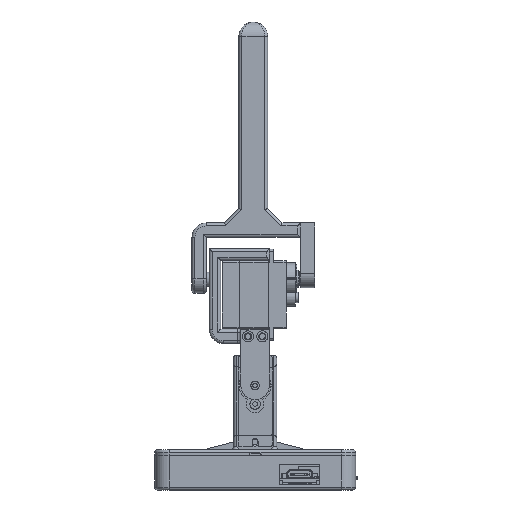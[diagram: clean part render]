
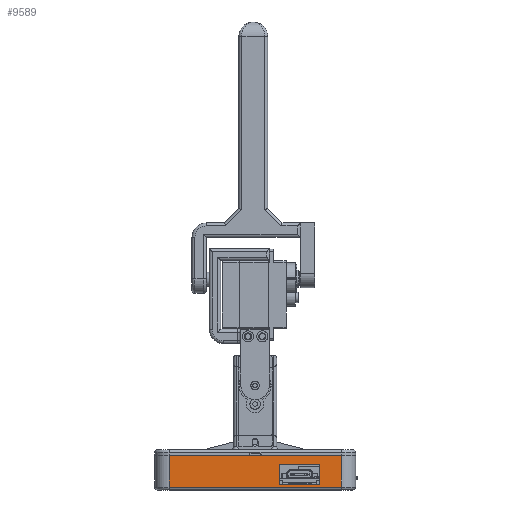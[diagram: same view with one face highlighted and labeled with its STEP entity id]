
A CAD part, left-side view. The second image highlights one B-rep face of the part: STEP entity #9589.
In plain terms, the highlighted planar face has unit normal (-1, 0, 0).
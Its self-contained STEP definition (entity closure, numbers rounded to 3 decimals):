
#9589 = ADVANCED_FACE('',(#9590,#9709),#9604,.F.);
#9590 = FACE_BOUND('',#9591,.F.);
#9591 = EDGE_LOOP('',(#9592,#9627,#9655,#9683));
#9592 = ORIENTED_EDGE('',*,*,#9593,.F.);
#9593 = EDGE_CURVE('',#9594,#9596,#9598,.T.);
#9594 = VERTEX_POINT('',#9595);
#9595 = CARTESIAN_POINT('',(-35.,-30.,-11.));
#9596 = VERTEX_POINT('',#9597);
#9597 = CARTESIAN_POINT('',(-35.,-30.,0.));
#9598 = SURFACE_CURVE('',#9599,(#9603,#9615),.PCURVE_S1.);
#9599 = LINE('',#9600,#9601);
#9600 = CARTESIAN_POINT('',(-35.,-30.,-11.));
#9601 = VECTOR('',#9602,1.);
#9602 = DIRECTION('',(0.,0.,1.));
#9603 = PCURVE('',#9604,#9609);
#9604 = PLANE('',#9605);
#9605 = AXIS2_PLACEMENT_3D('',#9606,#9607,#9608);
#9606 = CARTESIAN_POINT('',(-35.,-35.,-12.));
#9607 = DIRECTION('',(1.,0.,0.));
#9608 = DIRECTION('',(0.,0.,1.));
#9609 = DEFINITIONAL_REPRESENTATION('',(#9610),#9614);
#9610 = LINE('',#9611,#9612);
#9611 = CARTESIAN_POINT('',(1.,-5.));
#9612 = VECTOR('',#9613,1.);
#9613 = DIRECTION('',(1.,0.));
#9614 = ( GEOMETRIC_REPRESENTATION_CONTEXT(2) 
PARAMETRIC_REPRESENTATION_CONTEXT() REPRESENTATION_CONTEXT('2D SPACE',''
  ) );
#9615 = PCURVE('',#9616,#9621);
#9616 = CYLINDRICAL_SURFACE('',#9617,5.);
#9617 = AXIS2_PLACEMENT_3D('',#9618,#9619,#9620);
#9618 = CARTESIAN_POINT('',(-30.,-30.,-12.));
#9619 = DIRECTION('',(0.,0.,1.));
#9620 = DIRECTION('',(-1.,-0.,0.));
#9621 = DEFINITIONAL_REPRESENTATION('',(#9622),#9626);
#9622 = LINE('',#9623,#9624);
#9623 = CARTESIAN_POINT('',(0.,1.));
#9624 = VECTOR('',#9625,1.);
#9625 = DIRECTION('',(0.,1.));
#9626 = ( GEOMETRIC_REPRESENTATION_CONTEXT(2) 
PARAMETRIC_REPRESENTATION_CONTEXT() REPRESENTATION_CONTEXT('2D SPACE',''
  ) );
#9627 = ORIENTED_EDGE('',*,*,#9628,.F.);
#9628 = EDGE_CURVE('',#9629,#9594,#9631,.T.);
#9629 = VERTEX_POINT('',#9630);
#9630 = CARTESIAN_POINT('',(-35.,30.,-11.));
#9631 = SURFACE_CURVE('',#9632,(#9636,#9643),.PCURVE_S1.);
#9632 = LINE('',#9633,#9634);
#9633 = CARTESIAN_POINT('',(-35.,30.,-11.));
#9634 = VECTOR('',#9635,1.);
#9635 = DIRECTION('',(-0.,-1.,-0.));
#9636 = PCURVE('',#9604,#9637);
#9637 = DEFINITIONAL_REPRESENTATION('',(#9638),#9642);
#9638 = LINE('',#9639,#9640);
#9639 = CARTESIAN_POINT('',(1.,-65.));
#9640 = VECTOR('',#9641,1.);
#9641 = DIRECTION('',(0.,1.));
#9642 = ( GEOMETRIC_REPRESENTATION_CONTEXT(2) 
PARAMETRIC_REPRESENTATION_CONTEXT() REPRESENTATION_CONTEXT('2D SPACE',''
  ) );
#9643 = PCURVE('',#9644,#9649);
#9644 = CYLINDRICAL_SURFACE('',#9645,1.);
#9645 = AXIS2_PLACEMENT_3D('',#9646,#9647,#9648);
#9646 = CARTESIAN_POINT('',(-34.,30.,-11.));
#9647 = DIRECTION('',(-0.,-1.,-0.));
#9648 = DIRECTION('',(-1.,0.,0.));
#9649 = DEFINITIONAL_REPRESENTATION('',(#9650),#9654);
#9650 = LINE('',#9651,#9652);
#9651 = CARTESIAN_POINT('',(0.,0.));
#9652 = VECTOR('',#9653,1.);
#9653 = DIRECTION('',(0.,1.));
#9654 = ( GEOMETRIC_REPRESENTATION_CONTEXT(2) 
PARAMETRIC_REPRESENTATION_CONTEXT() REPRESENTATION_CONTEXT('2D SPACE',''
  ) );
#9655 = ORIENTED_EDGE('',*,*,#9656,.T.);
#9656 = EDGE_CURVE('',#9629,#9657,#9659,.T.);
#9657 = VERTEX_POINT('',#9658);
#9658 = CARTESIAN_POINT('',(-35.,30.,0.));
#9659 = SURFACE_CURVE('',#9660,(#9664,#9671),.PCURVE_S1.);
#9660 = LINE('',#9661,#9662);
#9661 = CARTESIAN_POINT('',(-35.,30.,-12.));
#9662 = VECTOR('',#9663,1.);
#9663 = DIRECTION('',(0.,0.,1.));
#9664 = PCURVE('',#9604,#9665);
#9665 = DEFINITIONAL_REPRESENTATION('',(#9666),#9670);
#9666 = LINE('',#9667,#9668);
#9667 = CARTESIAN_POINT('',(0.,-65.));
#9668 = VECTOR('',#9669,1.);
#9669 = DIRECTION('',(1.,0.));
#9670 = ( GEOMETRIC_REPRESENTATION_CONTEXT(2) 
PARAMETRIC_REPRESENTATION_CONTEXT() REPRESENTATION_CONTEXT('2D SPACE',''
  ) );
#9671 = PCURVE('',#9672,#9677);
#9672 = CYLINDRICAL_SURFACE('',#9673,5.);
#9673 = AXIS2_PLACEMENT_3D('',#9674,#9675,#9676);
#9674 = CARTESIAN_POINT('',(-30.,30.,-12.));
#9675 = DIRECTION('',(0.,0.,1.));
#9676 = DIRECTION('',(-1.,-0.,0.));
#9677 = DEFINITIONAL_REPRESENTATION('',(#9678),#9682);
#9678 = LINE('',#9679,#9680);
#9679 = CARTESIAN_POINT('',(-0.,0.));
#9680 = VECTOR('',#9681,1.);
#9681 = DIRECTION('',(-0.,1.));
#9682 = ( GEOMETRIC_REPRESENTATION_CONTEXT(2) 
PARAMETRIC_REPRESENTATION_CONTEXT() REPRESENTATION_CONTEXT('2D SPACE',''
  ) );
#9683 = ORIENTED_EDGE('',*,*,#9684,.F.);
#9684 = EDGE_CURVE('',#9596,#9657,#9685,.T.);
#9685 = SURFACE_CURVE('',#9686,(#9690,#9697),.PCURVE_S1.);
#9686 = LINE('',#9687,#9688);
#9687 = CARTESIAN_POINT('',(-35.,-30.1,0.));
#9688 = VECTOR('',#9689,1.);
#9689 = DIRECTION('',(0.,1.,0.));
#9690 = PCURVE('',#9604,#9691);
#9691 = DEFINITIONAL_REPRESENTATION('',(#9692),#9696);
#9692 = LINE('',#9693,#9694);
#9693 = CARTESIAN_POINT('',(12.,-4.9));
#9694 = VECTOR('',#9695,1.);
#9695 = DIRECTION('',(0.,-1.));
#9696 = ( GEOMETRIC_REPRESENTATION_CONTEXT(2) 
PARAMETRIC_REPRESENTATION_CONTEXT() REPRESENTATION_CONTEXT('2D SPACE',''
  ) );
#9697 = PCURVE('',#9698,#9703);
#9698 = PLANE('',#9699);
#9699 = AXIS2_PLACEMENT_3D('',#9700,#9701,#9702);
#9700 = CARTESIAN_POINT('',(-35.,-35.,0.));
#9701 = DIRECTION('',(0.,0.,1.));
#9702 = DIRECTION('',(1.,0.,0.));
#9703 = DEFINITIONAL_REPRESENTATION('',(#9704),#9708);
#9704 = LINE('',#9705,#9706);
#9705 = CARTESIAN_POINT('',(0.,4.9));
#9706 = VECTOR('',#9707,1.);
#9707 = DIRECTION('',(0.,1.));
#9708 = ( GEOMETRIC_REPRESENTATION_CONTEXT(2) 
PARAMETRIC_REPRESENTATION_CONTEXT() REPRESENTATION_CONTEXT('2D SPACE',''
  ) );
#9709 = FACE_BOUND('',#9710,.F.);
#9710 = EDGE_LOOP('',(#9711,#9739,#9765,#9791));
#9711 = ORIENTED_EDGE('',*,*,#9712,.T.);
#9712 = EDGE_CURVE('',#9713,#9715,#9717,.T.);
#9713 = VERTEX_POINT('',#9714);
#9714 = CARTESIAN_POINT('',(-35.,-8.5,-10.045));
#9715 = VERTEX_POINT('',#9716);
#9716 = CARTESIAN_POINT('',(-35.,-22.5,-10.045));
#9717 = SURFACE_CURVE('',#9718,(#9722,#9728),.PCURVE_S1.);
#9718 = LINE('',#9719,#9720);
#9719 = CARTESIAN_POINT('',(-35.,-28.75,-10.045));
#9720 = VECTOR('',#9721,1.);
#9721 = DIRECTION('',(0.,-1.,0.));
#9722 = PCURVE('',#9604,#9723);
#9723 = DEFINITIONAL_REPRESENTATION('',(#9724),#9727);
#9724 = B_SPLINE_CURVE_WITH_KNOTS('',1,(#9725,#9726),.UNSPECIFIED.,.F.,
  .F.,(2,2),(-20.25,-6.25),.PIECEWISE_BEZIER_KNOTS.);
#9725 = CARTESIAN_POINT('',(1.955,-26.5));
#9726 = CARTESIAN_POINT('',(1.955,-12.5));
#9727 = ( GEOMETRIC_REPRESENTATION_CONTEXT(2) 
PARAMETRIC_REPRESENTATION_CONTEXT() REPRESENTATION_CONTEXT('2D SPACE',''
  ) );
#9728 = PCURVE('',#9729,#9734);
#9729 = PLANE('',#9730);
#9730 = AXIS2_PLACEMENT_3D('',#9731,#9732,#9733);
#9731 = CARTESIAN_POINT('',(-38.,-22.5,-10.045));
#9732 = DIRECTION('',(0.,0.,1.));
#9733 = DIRECTION('',(1.,0.,0.));
#9734 = DEFINITIONAL_REPRESENTATION('',(#9735),#9738);
#9735 = B_SPLINE_CURVE_WITH_KNOTS('',1,(#9736,#9737),.UNSPECIFIED.,.F.,
  .F.,(2,2),(-20.25,-6.25),.PIECEWISE_BEZIER_KNOTS.);
#9736 = CARTESIAN_POINT('',(3.,14.));
#9737 = CARTESIAN_POINT('',(3.,0.));
#9738 = ( GEOMETRIC_REPRESENTATION_CONTEXT(2) 
PARAMETRIC_REPRESENTATION_CONTEXT() REPRESENTATION_CONTEXT('2D SPACE',''
  ) );
#9739 = ORIENTED_EDGE('',*,*,#9740,.T.);
#9740 = EDGE_CURVE('',#9715,#9741,#9743,.T.);
#9741 = VERTEX_POINT('',#9742);
#9742 = CARTESIAN_POINT('',(-35.,-22.5,-3.045));
#9743 = SURFACE_CURVE('',#9744,(#9748,#9754),.PCURVE_S1.);
#9744 = LINE('',#9745,#9746);
#9745 = CARTESIAN_POINT('',(-35.,-22.5,-11.023));
#9746 = VECTOR('',#9747,1.);
#9747 = DIRECTION('',(0.,0.,1.));
#9748 = PCURVE('',#9604,#9749);
#9749 = DEFINITIONAL_REPRESENTATION('',(#9750),#9753);
#9750 = B_SPLINE_CURVE_WITH_KNOTS('',1,(#9751,#9752),.UNSPECIFIED.,.F.,
  .F.,(2,2),(0.978,7.978),.PIECEWISE_BEZIER_KNOTS.);
#9751 = CARTESIAN_POINT('',(1.955,-12.5));
#9752 = CARTESIAN_POINT('',(8.955,-12.5));
#9753 = ( GEOMETRIC_REPRESENTATION_CONTEXT(2) 
PARAMETRIC_REPRESENTATION_CONTEXT() REPRESENTATION_CONTEXT('2D SPACE',''
  ) );
#9754 = PCURVE('',#9755,#9760);
#9755 = PLANE('',#9756);
#9756 = AXIS2_PLACEMENT_3D('',#9757,#9758,#9759);
#9757 = CARTESIAN_POINT('',(-38.,-22.5,-10.045));
#9758 = DIRECTION('',(0.,1.,0.));
#9759 = DIRECTION('',(0.,0.,1.));
#9760 = DEFINITIONAL_REPRESENTATION('',(#9761),#9764);
#9761 = B_SPLINE_CURVE_WITH_KNOTS('',1,(#9762,#9763),.UNSPECIFIED.,.F.,
  .F.,(2,2),(0.978,7.978),.PIECEWISE_BEZIER_KNOTS.);
#9762 = CARTESIAN_POINT('',(0.,3.));
#9763 = CARTESIAN_POINT('',(7.,3.));
#9764 = ( GEOMETRIC_REPRESENTATION_CONTEXT(2) 
PARAMETRIC_REPRESENTATION_CONTEXT() REPRESENTATION_CONTEXT('2D SPACE',''
  ) );
#9765 = ORIENTED_EDGE('',*,*,#9766,.F.);
#9766 = EDGE_CURVE('',#9767,#9741,#9769,.T.);
#9767 = VERTEX_POINT('',#9768);
#9768 = CARTESIAN_POINT('',(-35.,-8.5,-3.045));
#9769 = SURFACE_CURVE('',#9770,(#9774,#9780),.PCURVE_S1.);
#9770 = LINE('',#9771,#9772);
#9771 = CARTESIAN_POINT('',(-35.,-28.75,-3.045));
#9772 = VECTOR('',#9773,1.);
#9773 = DIRECTION('',(0.,-1.,0.));
#9774 = PCURVE('',#9604,#9775);
#9775 = DEFINITIONAL_REPRESENTATION('',(#9776),#9779);
#9776 = B_SPLINE_CURVE_WITH_KNOTS('',1,(#9777,#9778),.UNSPECIFIED.,.F.,
  .F.,(2,2),(-20.25,-6.25),.PIECEWISE_BEZIER_KNOTS.);
#9777 = CARTESIAN_POINT('',(8.955,-26.5));
#9778 = CARTESIAN_POINT('',(8.955,-12.5));
#9779 = ( GEOMETRIC_REPRESENTATION_CONTEXT(2) 
PARAMETRIC_REPRESENTATION_CONTEXT() REPRESENTATION_CONTEXT('2D SPACE',''
  ) );
#9780 = PCURVE('',#9781,#9786);
#9781 = PLANE('',#9782);
#9782 = AXIS2_PLACEMENT_3D('',#9783,#9784,#9785);
#9783 = CARTESIAN_POINT('',(-38.,-22.5,-3.045));
#9784 = DIRECTION('',(0.,0.,1.));
#9785 = DIRECTION('',(1.,0.,0.));
#9786 = DEFINITIONAL_REPRESENTATION('',(#9787),#9790);
#9787 = B_SPLINE_CURVE_WITH_KNOTS('',1,(#9788,#9789),.UNSPECIFIED.,.F.,
  .F.,(2,2),(-20.25,-6.25),.PIECEWISE_BEZIER_KNOTS.);
#9788 = CARTESIAN_POINT('',(3.,14.));
#9789 = CARTESIAN_POINT('',(3.,0.));
#9790 = ( GEOMETRIC_REPRESENTATION_CONTEXT(2) 
PARAMETRIC_REPRESENTATION_CONTEXT() REPRESENTATION_CONTEXT('2D SPACE',''
  ) );
#9791 = ORIENTED_EDGE('',*,*,#9792,.F.);
#9792 = EDGE_CURVE('',#9713,#9767,#9793,.T.);
#9793 = SURFACE_CURVE('',#9794,(#9798,#9804),.PCURVE_S1.);
#9794 = LINE('',#9795,#9796);
#9795 = CARTESIAN_POINT('',(-35.,-8.5,-11.023));
#9796 = VECTOR('',#9797,1.);
#9797 = DIRECTION('',(0.,0.,1.));
#9798 = PCURVE('',#9604,#9799);
#9799 = DEFINITIONAL_REPRESENTATION('',(#9800),#9803);
#9800 = B_SPLINE_CURVE_WITH_KNOTS('',1,(#9801,#9802),.UNSPECIFIED.,.F.,
  .F.,(2,2),(0.978,7.978),.PIECEWISE_BEZIER_KNOTS.);
#9801 = CARTESIAN_POINT('',(1.955,-26.5));
#9802 = CARTESIAN_POINT('',(8.955,-26.5));
#9803 = ( GEOMETRIC_REPRESENTATION_CONTEXT(2) 
PARAMETRIC_REPRESENTATION_CONTEXT() REPRESENTATION_CONTEXT('2D SPACE',''
  ) );
#9804 = PCURVE('',#9805,#9810);
#9805 = PLANE('',#9806);
#9806 = AXIS2_PLACEMENT_3D('',#9807,#9808,#9809);
#9807 = CARTESIAN_POINT('',(-38.,-8.5,-10.045));
#9808 = DIRECTION('',(0.,1.,0.));
#9809 = DIRECTION('',(0.,0.,1.));
#9810 = DEFINITIONAL_REPRESENTATION('',(#9811),#9814);
#9811 = B_SPLINE_CURVE_WITH_KNOTS('',1,(#9812,#9813),.UNSPECIFIED.,.F.,
  .F.,(2,2),(0.978,7.978),.PIECEWISE_BEZIER_KNOTS.);
#9812 = CARTESIAN_POINT('',(0.,3.));
#9813 = CARTESIAN_POINT('',(7.,3.));
#9814 = ( GEOMETRIC_REPRESENTATION_CONTEXT(2) 
PARAMETRIC_REPRESENTATION_CONTEXT() REPRESENTATION_CONTEXT('2D SPACE',''
  ) );
